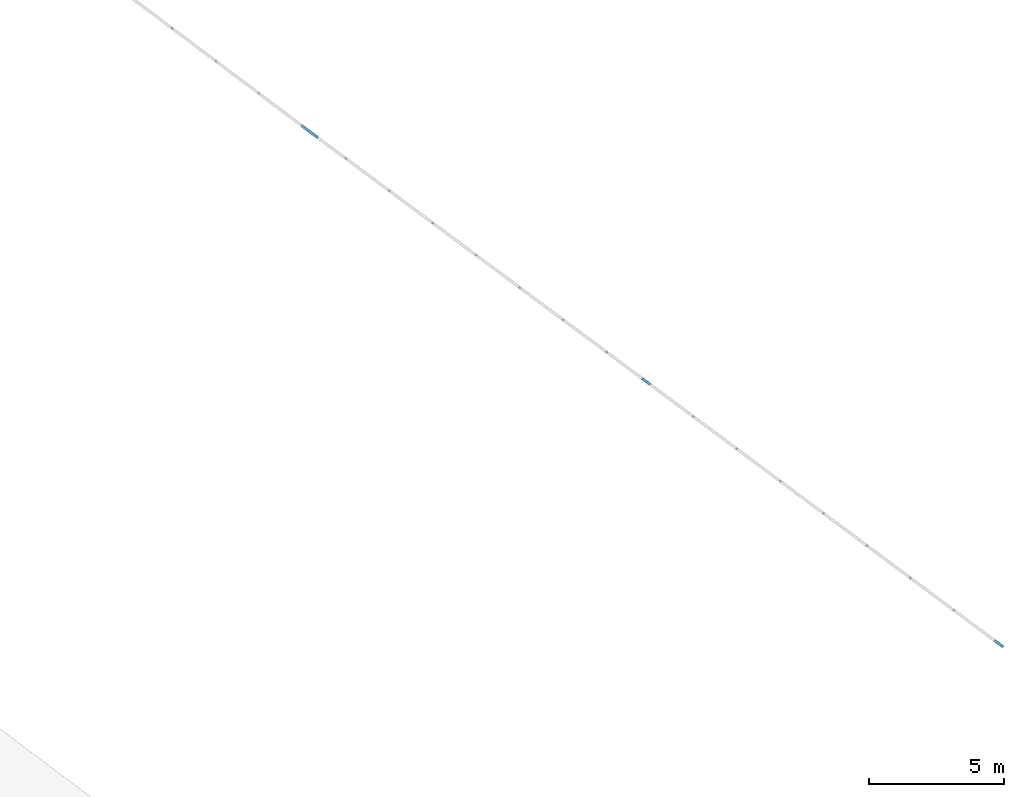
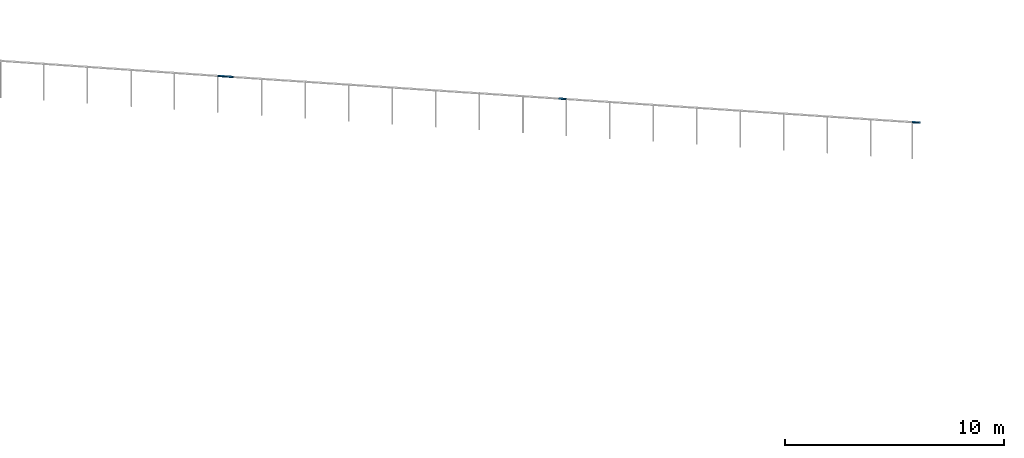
# One storey, part 10 of 12: 3 members, 2 elements without a shape of their own.
"""IFC2X3 building model written with IfcOpenShell, lengths in metres."""

import ifcopenshell
import ifcopenshell.guid

model = None  # the IFC model being written
_history = None  # IfcOwnerHistory: only IFC2X3 demands one
_inside = {}  # id of a spatial element -> (the spatial element, [elements in it])
_under = {}  # id of a project, library or spatial element -> (it, [spatial elements below it])
_declared = {}  # id of a project -> (the project, [libraries it declares])
_typed = {}  # id of a type object -> (the type object, [elements of that type])
_made_of = {}  # id of a material, layer set ... -> (it, [elements and type objects made of it])


def new_model(schema):
    """Start an empty IFC model of exactly this schema.

    Asked for "IFC4X3", IfcOpenShell would pick the latest addendum, in which some entities
    have other attributes; the version numbers below select the first issue.
    IFC2X3 requires an IfcOwnerHistory on every rooted entity: one is made here for all.
    """
    global model, _history
    if schema == "IFC4X3":
        model = ifcopenshell.file(schema_version=(4, 3, 0, 0))
    else:
        model = ifcopenshell.file(schema=schema)
    _inside.clear()
    _under.clear()
    _declared.clear()
    _typed.clear()
    _made_of.clear()
    _history = None
    if model.schema == "IFC2X3":
        org = make("IfcOrganization", Name="unknown")
        user = make(
            "IfcPersonAndOrganization",
            ThePerson=make("IfcPerson", FamilyName="unknown"),
            TheOrganization=org,
        )
        app = make(
            "IfcApplication",
            ApplicationDeveloper=org,
            Version="unknown",
            ApplicationFullName="unknown",
            ApplicationIdentifier="unknown",
        )
        _history = make(
            "IfcOwnerHistory",
            OwningUser=user,
            OwningApplication=app,
            ChangeAction="ADDED",
            CreationDate=0,
        )
    return model


def make(cls, **values):
    """One entity of the class cls with the attributes given. An attribute that is None is left unset."""
    return model.create_entity(
        cls, **{name: value for name, value in values.items() if value is not None}
    )


def entity(cls, *values):
    """Any entity or typed value of the class cls, its attributes in the order of the schema. None: left unset."""
    e = model.create_entity(cls)
    for i, value in enumerate(values):
        if value is not None:
            e[i] = value
    return e


def rooted(cls, **values):
    """An entity with a GlobalId (a new one), such as an element, a storey or a relation."""
    return make(cls, GlobalId=ifcopenshell.guid.new(), OwnerHistory=_history, **values)


def si_unit(unit_type, name, prefix=None):
    """IfcSIUnit, for example si_unit("LENGTHUNIT", "METRE", prefix="MILLI")."""
    return make("IfcSIUnit", UnitType=unit_type, Prefix=prefix, Name=name)


def converted_unit(unit_type, name, factor, base, dimensions=None, offset=None):
    """IfcConversionBasedUnit, such as the inch: factor (a typed value) times the base unit."""
    return make(
        "IfcConversionBasedUnit"
        if offset is None
        else "IfcConversionBasedUnitWithOffset",
        ConversionOffset=offset,
        Dimensions=None
        if dimensions is None
        else entity("IfcDimensionalExponents", *dimensions),
        UnitType=unit_type,
        Name=name,
        ConversionFactor=make(
            "IfcMeasureWithUnit", ValueComponent=factor, UnitComponent=base
        ),
    )


def derived_unit(unit_type, elements):
    """IfcDerivedUnit: a product of units, each with its exponent."""
    return make(
        "IfcDerivedUnit",
        Elements=[
            make("IfcDerivedUnitElement", Unit=unit, Exponent=power)
            for unit, power in elements
        ],
        UnitType=unit_type,
    )


def assignment(units):
    """IfcUnitAssignment: the units of a project."""
    return None if units is None else make("IfcUnitAssignment", Units=units)


def point(xyz):
    """IfcCartesianPoint."""
    return None if xyz is None else make("IfcCartesianPoint", Coordinates=xyz)


def direction(xyz):
    """IfcDirection."""
    return None if xyz is None else make("IfcDirection", DirectionRatios=xyz)


def frame(location, z_axis=None, x_axis=None):
    """IfcAxis2Placement3D, a coordinate frame: its origin and axes. An axis left out is left unset."""
    return make(
        "IfcAxis2Placement3D",
        Location=point(location),
        Axis=direction(z_axis),
        RefDirection=direction(x_axis),
    )


def frame_2d(location, x_axis=None):
    """IfcAxis2Placement2D, a coordinate frame in the plane: its origin and x axis."""
    return make(
        "IfcAxis2Placement2D", Location=point(location), RefDirection=direction(x_axis)
    )


def origin():
    """The frame at (0, 0, 0) with its axes left unset."""
    return frame((0.0, 0.0, 0.0))


def origin_2d_with_axis():
    """The frame at (0, 0) in the plane with the x axis (1, 0) written out."""
    return frame_2d((0.0, 0.0), x_axis=(1.0, 0.0))


def place(relative_to, where):
    """IfcLocalPlacement: puts the frame where relative to a parent placement (None: the world)."""
    return make(
        "IfcLocalPlacement", PlacementRelTo=relative_to, RelativePlacement=where
    )


def context(
    kind, dimensions, precision=None, world=None, true_north=None, identifier=None
):
    """IfcGeometricRepresentationContext, for example the 3D "Model" context."""
    return make(
        "IfcGeometricRepresentationContext",
        ContextIdentifier=identifier,
        ContextType=kind,
        CoordinateSpaceDimension=dimensions,
        Precision=precision,
        WorldCoordinateSystem=world,
        TrueNorth=true_north,
    )


def subcontext(parent, identifier, kind, view, scale=None):
    """IfcGeometricRepresentationSubContext, for example "Body" below "Model"."""
    return make(
        "IfcGeometricRepresentationSubContext",
        ContextIdentifier=identifier,
        ContextType=kind,
        ParentContext=parent,
        TargetScale=scale,
        TargetView=view,
    )


def project(units=None, contexts=None):
    """IfcProject with its units and contexts."""
    return rooted(
        "IfcProject",
        Name="project",
        RepresentationContexts=contexts,
        UnitsInContext=assignment(units),
    )


def spatial(cls, under=None, at=None, **own):
    """A site, building, storey or space (cls), placed at a placement, below another one or the project."""
    s = rooted(cls, ObjectPlacement=at, **own)
    if under is not None:
        _under.setdefault(under.id(), (under, []))[1].append(s)
    return s


def profile(cls, at=None, kind="AREA", **sizes):
    """A parametric profile (cls). Its sizes go by their IFC names, for example OverallWidth=200.0."""
    return make(cls, ProfileType=kind, Position=at, **sizes)


def rectangle(**sizes):
    """IfcRectangleProfileDef."""
    return profile("IfcRectangleProfileDef", **sizes)


def extrude(swept, where, along, depth):
    """IfcExtrudedAreaSolid: the profile swept, set in the frame where, extruded along a direction by depth."""
    return make(
        "IfcExtrudedAreaSolid",
        SweptArea=swept,
        Position=where,
        ExtrudedDirection=direction(along),
        Depth=depth,
    )


def clip(a, b, op="DIFFERENCE"):
    """IfcBooleanClippingResult: the solid a cut by the half space b."""
    return make(
        "IfcBooleanClippingResult", Operator=op, FirstOperand=a, SecondOperand=b
    )


def halfspace(plane, agree):
    """IfcHalfSpaceSolid: all space on one side of the plane z = 0 of the frame plane."""
    return make(
        "IfcHalfSpaceSolid",
        BaseSurface=make("IfcPlane", Position=plane),
        AgreementFlag=agree,
    )


def shape(context_of_items, identifier, shape_type, items):
    """IfcShapeRepresentation: the items that make up one representation, for example the "Body"."""
    return make(
        "IfcShapeRepresentation",
        ContextOfItems=context_of_items,
        RepresentationIdentifier=identifier,
        RepresentationType=shape_type,
        Items=items,
    )


def source(mapping_origin, context_of_items, identifier, shape_type, items):
    """IfcRepresentationMap: a shape defined once, which mapped items show again and again."""
    return make(
        "IfcRepresentationMap",
        MappingOrigin=mapping_origin,
        MappedRepresentation=shape(context_of_items, identifier, shape_type, items),
    )


def transform(
    local_origin,
    x_axis=None,
    y_axis=None,
    z_axis=None,
    scale=None,
    scale2=None,
    scale3=None,
    uniform=True,
):
    """IfcCartesianTransformationOperator3D, or its non-uniform kind. x_axis, y_axis, z_axis: its Axis1, 2, 3."""
    if uniform:
        return make(
            "IfcCartesianTransformationOperator3D",
            Axis1=direction(x_axis),
            Axis2=direction(y_axis),
            LocalOrigin=point(local_origin),
            Scale=scale,
            Axis3=direction(z_axis),
        )
    return make(
        "IfcCartesianTransformationOperator3DnonUniform",
        Axis1=direction(x_axis),
        Axis2=direction(y_axis),
        LocalOrigin=point(local_origin),
        Scale=scale,
        Axis3=direction(z_axis),
        Scale2=scale2,
        Scale3=scale3,
    )


def mapped(mapping_source, mapping_target):
    """IfcMappedItem: shows the shape of a source again, moved by a transform."""
    return make(
        "IfcMappedItem", MappingSource=mapping_source, MappingTarget=mapping_target
    )


def material(Name=None, Category=None):
    """IfcMaterial."""
    return make("IfcMaterial", Name=Name, Category=Category)


def made_of(thing, what):
    """Note that an element or type object is made of a material, layer set ...; save() writes the relation."""
    if what is not None:
        _made_of.setdefault(what.id(), (what, []))[1].append(thing)
    return thing


def type_object(cls, material=None, **own):
    """A type object (cls), such as IfcWallType, which elements share."""
    return made_of(rooted(cls, **own), material)


def type_shapes(of_type, sources):
    """Give a type object the sources (RepresentationMaps) that its elements show as mapped items."""
    of_type.RepresentationMaps = sources


def element(
    cls,
    number,
    at=None,
    inside=None,
    cuts=None,
    type_object=None,
    material=None,
    context=None,
    identifier="Body",
    shape_type=None,
    held_by="IfcProductDefinitionShape",
    body=None,
    shapes=None,
    **own,
):
    """One element of the class cls, such as IfcWall. Its Tag is "e" and its number.

    at: its placement. inside: the storey or other place that contains it. cuts: it is an
    opening in that element (IfcRelVoidsElement). A single representation is given by context,
    identifier, shape_type and body (its items); several are given by shapes. held_by: the class
    of the entity that holds the representations. save() writes the other relations.
    """
    e = rooted(cls, Tag="e%d" % number, ObjectPlacement=at, **own)
    if body is not None:
        shapes = [shape(context, identifier, shape_type, body)]
    if shapes is not None:
        e.Representation = make(held_by, Representations=shapes)
    if inside is not None:
        _inside.setdefault(inside.id(), (inside, []))[1].append(e)
    if cuts is not None:
        rooted(
            "IfcRelVoidsElement", RelatingBuildingElement=cuts, RelatedOpeningElement=e
        )
    if type_object is not None:
        _typed.setdefault(type_object.id(), (type_object, []))[1].append(e)
    return made_of(e, material)


def aggregate(whole, parts):
    """IfcRelAggregates: a whole, such as a stair, and the parts it consists of."""
    return rooted("IfcRelAggregates", RelatingObject=whole, RelatedObjects=parts)


def save(model, path):
    """Write the relations noted so far, then the file.

    IfcRelAggregates (storeys below a building ...), IfcRelContainedInSpatialStructure (elements
    in a storey), IfcRelDefinesByType, IfcRelAssociatesMaterial and IfcRelDeclares: one each for
    every whole, place, type object, material and project.
    """
    for whole, parts in _under.values():
        aggregate(whole, parts)
    for where, things in _inside.values():
        rooted(
            "IfcRelContainedInSpatialStructure",
            RelatedElements=things,
            RelatingStructure=where,
        )
    for kind, things in _typed.values():
        rooted("IfcRelDefinesByType", RelatedObjects=things, RelatingType=kind)
    for what, things in _made_of.values():
        rooted("IfcRelAssociatesMaterial", RelatedObjects=things, RelatingMaterial=what)
    for by, libraries in _declared.values():
        rooted("IfcRelDeclares", RelatingContext=by, RelatedDefinitions=libraries)
    model.write(path)


model = new_model("IFC2X3")

# Units and contexts
model_context = context("Model", 3, precision=1e-05, world=origin(), true_north=direction((6.123031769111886e-17, 1.0)))
body_context = subcontext(model_context, "Body", "Model", "MODEL_VIEW")
ifc_project = project(units=[si_unit("LENGTHUNIT", "METRE"), si_unit("AREAUNIT", "SQUARE_METRE"), si_unit("VOLUMEUNIT", "CUBIC_METRE"), converted_unit("PLANEANGLEUNIT", "DEGREE", entity("IfcRatioMeasure", 0.017453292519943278), si_unit("PLANEANGLEUNIT", "RADIAN"), dimensions=[0, 0, 0, 0, 0, 0, 0]), si_unit("MASSUNIT", "GRAM", prefix="KILO"), derived_unit("MASSDENSITYUNIT", [(si_unit("MASSUNIT", "GRAM", prefix="KILO"), 1), (si_unit("LENGTHUNIT", "METRE"), -3)]), derived_unit("IONCONCENTRATIONUNIT", [(si_unit("MASSUNIT", "GRAM", prefix="KILO"), 1), (si_unit("LENGTHUNIT", "METRE"), -3)]), derived_unit("MOMENTOFINERTIAUNIT", [(si_unit("LENGTHUNIT", "METRE"), 4)]), si_unit("TIMEUNIT", "SECOND"), si_unit("FREQUENCYUNIT", "HERTZ"), si_unit("THERMODYNAMICTEMPERATUREUNIT", "DEGREE_CELSIUS"), derived_unit("THERMALTRANSMITTANCEUNIT", [(si_unit("MASSUNIT", "GRAM", prefix="KILO"), 1), (si_unit("THERMODYNAMICTEMPERATUREUNIT", "KELVIN"), -1), (si_unit("TIMEUNIT", "SECOND"), -3)]), derived_unit("THERMALCONDUCTANCEUNIT", [(si_unit("MASSUNIT", "GRAM", prefix="KILO"), 1), (si_unit("THERMODYNAMICTEMPERATUREUNIT", "KELVIN"), -1), (si_unit("TIMEUNIT", "SECOND"), -3), (si_unit("LENGTHUNIT", "METRE"), 1)]), derived_unit("VOLUMETRICFLOWRATEUNIT", [(si_unit("LENGTHUNIT", "METRE"), 3), (si_unit("TIMEUNIT", "SECOND"), -1)]), derived_unit("MASSFLOWRATEUNIT", [(si_unit("MASSUNIT", "GRAM", prefix="KILO"), 1), (si_unit("TIMEUNIT", "SECOND"), -1)]), derived_unit("ROTATIONALFREQUENCYUNIT", [(si_unit("TIMEUNIT", "SECOND"), -1)]), si_unit("ELECTRICCURRENTUNIT", "AMPERE"), si_unit("ELECTRICVOLTAGEUNIT", "VOLT"), si_unit("POWERUNIT", "WATT"), si_unit("FORCEUNIT", "NEWTON", prefix="KILO"), si_unit("ILLUMINANCEUNIT", "LUX"), si_unit("LUMINOUSFLUXUNIT", "LUMEN"), si_unit("LUMINOUSINTENSITYUNIT", "CANDELA"), derived_unit("USERDEFINED", [(si_unit("MASSUNIT", "GRAM", prefix="KILO"), -1), (si_unit("LENGTHUNIT", "METRE"), -2), (si_unit("TIMEUNIT", "SECOND"), 3), (si_unit("LUMINOUSFLUXUNIT", "LUMEN"), 1)]), derived_unit("USERDEFINED", [(si_unit("MASSUNIT", "GRAM", prefix="KILO"), 1), (si_unit("TIMEUNIT", "SECOND"), -3), (si_unit("LENGTHUNIT", "METRE"), 3), (si_unit("ELECTRICCURRENTUNIT", "AMPERE"), -2)]), derived_unit("SOUNDPOWERUNIT", [(si_unit("MASSUNIT", "GRAM", prefix="KILO"), 1), (si_unit("TIMEUNIT", "SECOND"), -3), (si_unit("LENGTHUNIT", "METRE"), 2)]), derived_unit("SOUNDPRESSUREUNIT", [(si_unit("MASSUNIT", "GRAM", prefix="KILO"), 1), (si_unit("LENGTHUNIT", "METRE"), -1), (si_unit("TIMEUNIT", "SECOND"), -2)]), derived_unit("LINEARVELOCITYUNIT", [(si_unit("LENGTHUNIT", "METRE"), 1), (si_unit("TIMEUNIT", "SECOND"), -1)]), si_unit("PRESSUREUNIT", "PASCAL"), derived_unit("USERDEFINED", [(si_unit("MASSUNIT", "GRAM", prefix="KILO"), 1), (si_unit("LENGTHUNIT", "METRE"), -2), (si_unit("TIMEUNIT", "SECOND"), -2)]), derived_unit("LINEARFORCEUNIT", [(si_unit("MASSUNIT", "GRAM", prefix="KILO"), 1), (si_unit("TIMEUNIT", "SECOND"), -2)]), derived_unit("PLANARFORCEUNIT", [(si_unit("MASSUNIT", "GRAM", prefix="KILO"), 1), (si_unit("LENGTHUNIT", "METRE"), -1), (si_unit("TIMEUNIT", "SECOND"), -2)]), derived_unit("SPECIFICHEATCAPACITYUNIT", [(si_unit("THERMODYNAMICTEMPERATUREUNIT", "KELVIN"), -1), (si_unit("LENGTHUNIT", "METRE"), 2), (si_unit("TIMEUNIT", "SECOND"), -2)]), derived_unit("HEATINGVALUEUNIT", [(si_unit("LENGTHUNIT", "METRE"), 2), (si_unit("TIMEUNIT", "SECOND"), -2)]), derived_unit("VAPORPERMEABILITYUNIT", [(si_unit("LENGTHUNIT", "METRE"), -1), (si_unit("TIMEUNIT", "SECOND"), 1)]), derived_unit("DYNAMICVISCOSITYUNIT", [(si_unit("MASSUNIT", "GRAM", prefix="KILO"), 1), (si_unit("TIMEUNIT", "SECOND"), -1), (si_unit("LENGTHUNIT", "METRE"), -1)]), derived_unit("THERMALEXPANSIONCOEFFICIENTUNIT", [(si_unit("THERMODYNAMICTEMPERATUREUNIT", "KELVIN"), -1)]), derived_unit("MODULUSOFELASTICITYUNIT", [(si_unit("MASSUNIT", "GRAM", prefix="KILO"), 1), (si_unit("LENGTHUNIT", "METRE"), -1), (si_unit("TIMEUNIT", "SECOND"), -2)]), derived_unit("ISOTHERMALMOISTURECAPACITYUNIT", [(si_unit("LENGTHUNIT", "METRE"), 3), (si_unit("MASSUNIT", "GRAM", prefix="KILO"), -1)]), derived_unit("MOISTUREDIFFUSIVITYUNIT", [(si_unit("TIMEUNIT", "SECOND"), -1), (si_unit("LENGTHUNIT", "METRE"), 2)])], contexts=[model_context])

# Site, building, storey
site_placement = place(None, origin())
site = spatial("IfcSite", under=ifc_project, at=site_placement, Name="Superficie", CompositionType="ELEMENT")
building_placement = place(site_placement, frame((0.0, 0.0, 235.0), z_axis=(0.0, 0.0, 1.0), x_axis=(-0.7996477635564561, 0.6004693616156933, 0.0)))
building = spatial("IfcBuilding", under=site, at=building_placement, CompositionType="ELEMENT")
storey_placement = place(building_placement, frame((0.0, 0.0, -4.459999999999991)))
storey = spatial("IfcBuildingStorey", under=building, at=storey_placement, Name="PS1- Vestuari", CompositionType="ELEMENT", Elevation=-4.459999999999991)

# Curtain wall, members
curtain_wall_type = type_object("IfcCurtainWallType", Name="Muro cortina:SER EXT- Tanca exterior", PredefinedType="NOTDEFINED")
curtain_wall_1_placement = place(storey_placement, frame((0.0, 0.0, 4.459999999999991)))
curtain_wall_1 = element("IfcCurtainWall", 1, at=curtain_wall_1_placement, inside=storey, type_object=curtain_wall_type, Name="Muro cortina:SER EXT- Tanca exterior", ObjectType="Muro cortina:SER EXT- Tanca exterior")
ifc_material = material(Name="_Formigó- Solera- T1- STR")
member_type_1 = type_object("IfcMemberType", Name="Montante rectangular:Montante rectangular 100x50", PredefinedType="MULLION", material=ifc_material)
shared_shape_1 = source(origin(), body_context, "Body", "SweptSolid", [
    clip(extrude(rectangle(XDim=0.1, YDim=0.05000000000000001, at=origin_2d_with_axis()), frame((-0.025000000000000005, 0.0, -0.3798175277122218), z_axis=(0.0, 0.0, 1.0), x_axis=(0.0, -1.0, 0.0)), (0.0, 0.0, 1.0), 0.38110676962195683), halfspace(frame((-0.3048, 0.0, 0.0), z_axis=(0.0, 0.02577627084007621, 0.9996677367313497), x_axis=(0.0, 0.9996677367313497, -0.02577627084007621)), False)),
])
type_shapes(member_type_1, [shared_shape_1])
member_1_placement = place(curtain_wall_1_placement, frame((7.638587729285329, -66.71782133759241, -3.459999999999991), z_axis=(-0.9999891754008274, -0.004652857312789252, 0.0), x_axis=(0.0, 0.0, 1.0)))
member_1 = element("IfcMember", 2, at=member_1_placement, type_object=member_type_1, material=ifc_material, Name="Montante rectangular:Montante rectangular 100x50", ObjectType="Montante rectangular:Montante rectangular 100x50", context=body_context, shape_type="MappedRepresentation", body=[
    mapped(shared_shape_1, transform((0.0, 0.0, 0.0), scale=1.0)),
])
member_type_2 = type_object("IfcMemberType", Name="Montante rectangular:Montante rectangular 100x50", PredefinedType="MULLION", material=ifc_material)
shared_shape_2 = source(origin(), body_context, "Body", "SweptSolid", [
    extrude(rectangle(XDim=0.1, YDim=0.05000000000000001, at=origin_2d_with_axis()), frame((-0.025000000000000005, 0.0, -0.350019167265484), z_axis=(0.0, 0.0, 1.0), x_axis=(0.0, -1.0, 0.0)), (0.0, 0.0, 1.0), 0.3500191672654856),
])
type_shapes(member_type_2, [shared_shape_2])
member_2_placement = place(curtain_wall_1_placement, frame((23.910364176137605, -66.64211026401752, -3.459999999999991), z_axis=(-0.9999891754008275, -0.004652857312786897, 0.0), x_axis=(0.0, 0.0, 1.0)))
member_2 = element("IfcMember", 3, at=member_2_placement, type_object=member_type_2, material=ifc_material, Name="Montante rectangular:Montante rectangular 100x50", ObjectType="Montante rectangular:Montante rectangular 100x50", context=body_context, shape_type="MappedRepresentation", body=[
    mapped(shared_shape_2, transform((0.0, 0.0, 0.0), scale=1.0)),
])
aggregate(curtain_wall_1, [member_1, member_2])

# Curtain wall, member
curtain_wall_2_placement = place(storey_placement, frame((0.0, 0.0, 4.459999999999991)))
curtain_wall_2 = element("IfcCurtainWall", 4, at=curtain_wall_2_placement, inside=storey, type_object=curtain_wall_type, Name="Muro cortina:SER EXT- Tanca exterior", ObjectType="Muro cortina:SER EXT- Tanca exterior")
member_type_3 = type_object("IfcMemberType", Name="Montante rectangular:Montante rectangular 100x50", PredefinedType="MULLION", material=ifc_material)
shared_shape_3 = source(origin(), body_context, "Body", "SweptSolid", [
    clip(extrude(rectangle(XDim=0.1, YDim=0.05000000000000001, at=origin_2d_with_axis()), frame((-0.025000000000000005, 0.0, -0.7246706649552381), z_axis=(0.0, 0.0, 1.0), x_axis=(0.0, -1.0, 0.0)), (0.0, 0.0, 1.0), 0.724806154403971), halfspace(frame((0.3048, 0.0, 0.0), z_axis=(0.0, -0.0027097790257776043, 0.999996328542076), x_axis=(0.0, -0.999996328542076, -0.0027097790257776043)), False)),
])
type_shapes(member_type_3, [shared_shape_3])
member_3_placement = place(curtain_wall_2_placement, frame((39.20299134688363, -66.5594984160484, -3.459999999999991), z_axis=(-1.0, 0.0, 0.0), x_axis=(0.0, 0.0, 1.0)))
member_3 = element("IfcMember", 5, at=member_3_placement, type_object=member_type_3, material=ifc_material, Name="Montante rectangular:Montante rectangular 100x50", ObjectType="Montante rectangular:Montante rectangular 100x50", context=body_context, shape_type="MappedRepresentation", body=[
    mapped(shared_shape_3, transform((0.0, 0.0, 0.0), scale=1.0)),
])
aggregate(curtain_wall_2, [member_3])

save(model, "model.ifc")
